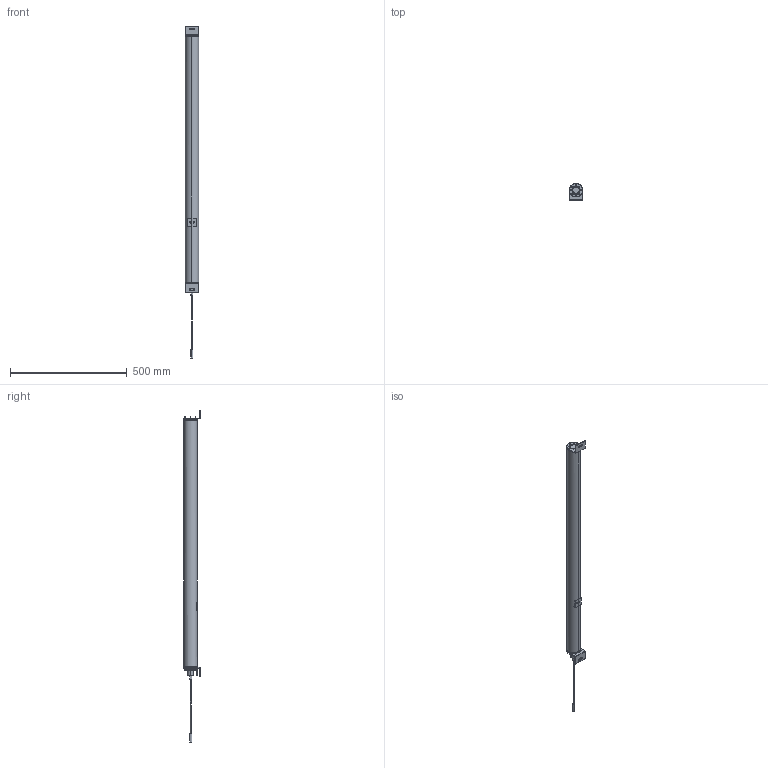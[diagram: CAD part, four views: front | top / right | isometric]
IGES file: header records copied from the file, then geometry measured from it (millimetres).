
Global section: file name: C:\ACADFILES\SS_PYLONS\CUSTOMER_FILES\SS-40-PYLON_3D_SMB_PT.igs; native system: AutoCAD-18.2s (LMS Tech) (Microsoft Windows NT Version 6.1 (x86)); preprocessor: Autodesk IGES Translator Mechanical Desktop 2011 (Feb 18 2011) from Autodesk, Inc.; date: 20140326.133814; units: inch
Bounding box: 57.29 x 69.85 x 1422.77 mm (x, y, z)
Surface area: 840355.7 mm2 (no closed solid volume)
Topology: 0 solids, 0 shells, 1800 faces, 9329 edges, 9504 vertices
Faces by surface type: bspline 1800
